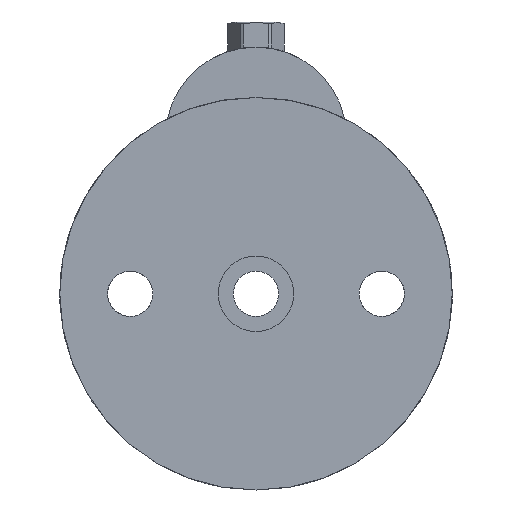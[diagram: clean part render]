
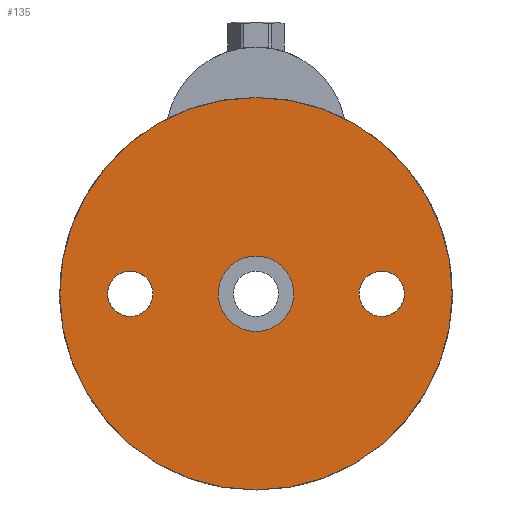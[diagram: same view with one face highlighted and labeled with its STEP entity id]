
A CAD part, front view. The second image highlights one B-rep face of the part: STEP entity #135.
In plain terms, the highlighted planar face has unit normal (0, -1, 0).
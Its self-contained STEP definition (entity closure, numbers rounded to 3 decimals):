
#135 = ADVANCED_FACE( '', ( #295, #296, #297, #298 ), #299, .T. );
#295 = FACE_OUTER_BOUND( '', #475, .T. );
#296 = FACE_BOUND( '', #476, .T. );
#297 = FACE_BOUND( '', #477, .T. );
#298 = FACE_BOUND( '', #478, .T. );
#299 = PLANE( '', #479 );
#475 = EDGE_LOOP( '', ( #932 ) );
#476 = EDGE_LOOP( '', ( #933 ) );
#477 = EDGE_LOOP( '', ( #934 ) );
#478 = EDGE_LOOP( '', ( #935 ) );
#479 = AXIS2_PLACEMENT_3D( '', #936, #937, #938 );
#932 = ORIENTED_EDGE( '', *, *, #1004, .T. );
#933 = ORIENTED_EDGE( '', *, *, #1125, .T. );
#934 = ORIENTED_EDGE( '', *, *, #1126, .F. );
#935 = ORIENTED_EDGE( '', *, *, #1124, .F. );
#936 = CARTESIAN_POINT( '', ( 7.5, 0., 0. ) );
#937 = DIRECTION( '', ( 0., -1., 0. ) );
#938 = DIRECTION( '', ( 0., 0., -1. ) );
#1004 = EDGE_CURVE( '', #1155, #1155, #1156, .T. );
#1124 = EDGE_CURVE( '', #1355, #1355, #1356, .T. );
#1125 = EDGE_CURVE( '', #1357, #1357, #1358, .F. );
#1126 = EDGE_CURVE( '', #1359, #1359, #1360, .T. );
#1155 = VERTEX_POINT( '', #1399 );
#1156 = CIRCLE( '', #1400, 39. );
#1355 = VERTEX_POINT( '', #2004 );
#1356 = CIRCLE( '', #2005, 7.5 );
#1357 = VERTEX_POINT( '', #2006 );
#1358 = CIRCLE( '', #2007, 4.5 );
#1359 = VERTEX_POINT( '', #2008 );
#1360 = CIRCLE( '', #2009, 4.5 );
#1399 = CARTESIAN_POINT( '', ( 0., 0., -39. ) );
#1400 = AXIS2_PLACEMENT_3D( '', #2042, #2043, #2044 );
#2004 = CARTESIAN_POINT( '', ( 0., 0., -7.5 ) );
#2005 = AXIS2_PLACEMENT_3D( '', #2259, #2260, #2261 );
#2006 = CARTESIAN_POINT( '', ( 25., 0., -4.5 ) );
#2007 = AXIS2_PLACEMENT_3D( '', #2262, #2263, #2264 );
#2008 = CARTESIAN_POINT( '', ( -25., 0., -4.5 ) );
#2009 = AXIS2_PLACEMENT_3D( '', #2265, #2266, #2267 );
#2042 = CARTESIAN_POINT( '', ( 0., 0., 0. ) );
#2043 = DIRECTION( '', ( 0., -1., 0. ) );
#2044 = DIRECTION( '', ( 0., 0., -1. ) );
#2259 = CARTESIAN_POINT( '', ( 0., 0., 0. ) );
#2260 = DIRECTION( '', ( 0., -1., 0. ) );
#2261 = DIRECTION( '', ( 0., 0., -1. ) );
#2262 = CARTESIAN_POINT( '', ( 25., 0., 0. ) );
#2263 = DIRECTION( '', ( 0., -1., 0. ) );
#2264 = DIRECTION( '', ( 0., 0., -1. ) );
#2265 = CARTESIAN_POINT( '', ( -25., 0., 0. ) );
#2266 = DIRECTION( '', ( 0., -1., 0. ) );
#2267 = DIRECTION( '', ( 0., 0., -1. ) );
